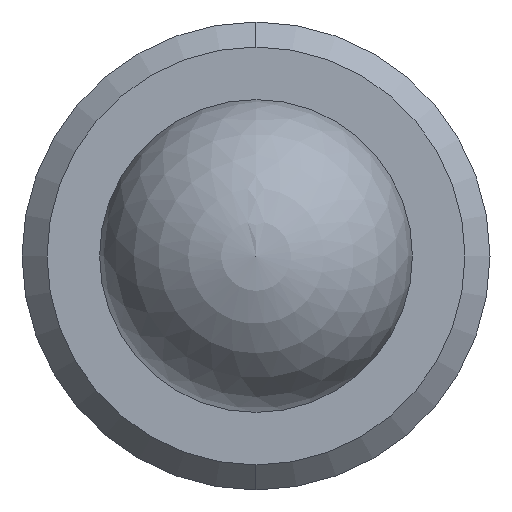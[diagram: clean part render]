
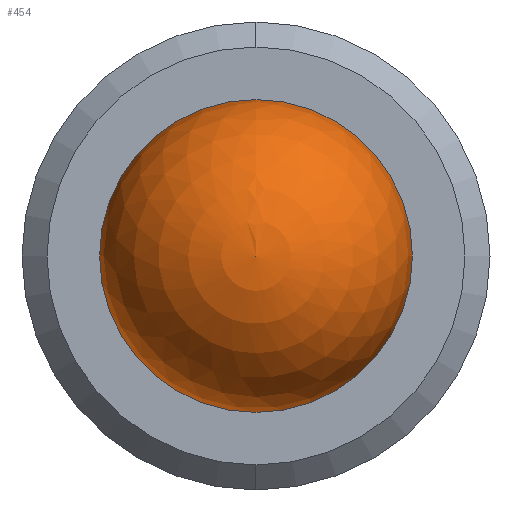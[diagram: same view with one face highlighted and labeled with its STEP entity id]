
A CAD part, left-side view. The second image highlights one B-rep face of the part: STEP entity #454.
In plain terms, the highlighted spherical face has radius 1.587 mm.
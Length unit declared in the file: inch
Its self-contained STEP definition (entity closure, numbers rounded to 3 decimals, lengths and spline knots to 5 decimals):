
#16 = CIRCLE ( 'NONE', #345, 0.0625 ) ;
#26 = VERTEX_POINT ( 'NONE', #78 ) ;
#44 = ORIENTED_EDGE ( 'NONE', *, *, #560, .T. ) ;
#78 = CARTESIAN_POINT ( 'NONE',  ( 0., 0.0625, 0. ) ) ;
#106 = DIRECTION ( 'NONE',  ( 1., 0., 0. ) ) ;
#128 = CARTESIAN_POINT ( 'NONE',  ( 0., -0.0625, 0. ) ) ;
#139 = CIRCLE ( 'NONE', #273, 0.0625 ) ;
#157 = EDGE_LOOP ( 'NONE', ( #483, #44 ) ) ;
#205 = FACE_OUTER_BOUND ( 'NONE', #157, .T. ) ;
#206 = CARTESIAN_POINT ( 'NONE',  ( 0., 0., 0. ) ) ;
#215 = SPHERICAL_SURFACE ( 'NONE', #555, 0.0625 ) ;
#273 = AXIS2_PLACEMENT_3D ( 'NONE', #414, #106, #464 ) ;
#275 = DIRECTION ( 'NONE',  ( 0., 0., 1. ) ) ;
#340 = DIRECTION ( 'NONE',  ( -1., 0., 0. ) ) ;
#343 = CARTESIAN_POINT ( 'NONE',  ( 0., 0., 0. ) ) ;
#345 = AXIS2_PLACEMENT_3D ( 'NONE', #206, #553, #275 ) ;
#387 = DIRECTION ( 'NONE',  ( 0., 0., 1. ) ) ;
#414 = CARTESIAN_POINT ( 'NONE',  ( 0., 0., 0. ) ) ;
#446 = VERTEX_POINT ( 'NONE', #128 ) ;
#454 = ADVANCED_FACE ( 'NONE', ( #205 ), #215, .T. ) ;
#464 = DIRECTION ( 'NONE',  ( 0., 0., -1. ) ) ;
#483 = ORIENTED_EDGE ( 'NONE', *, *, #578, .F. ) ;
#553 = DIRECTION ( 'NONE',  ( -1., 0., 0. ) ) ;
#555 = AXIS2_PLACEMENT_3D ( 'NONE', #343, #340, #387 ) ;
#560 = EDGE_CURVE ( 'NONE', #26, #446, #16, .T. ) ;
#578 = EDGE_CURVE ( 'NONE', #26, #446, #139, .T. ) ;
